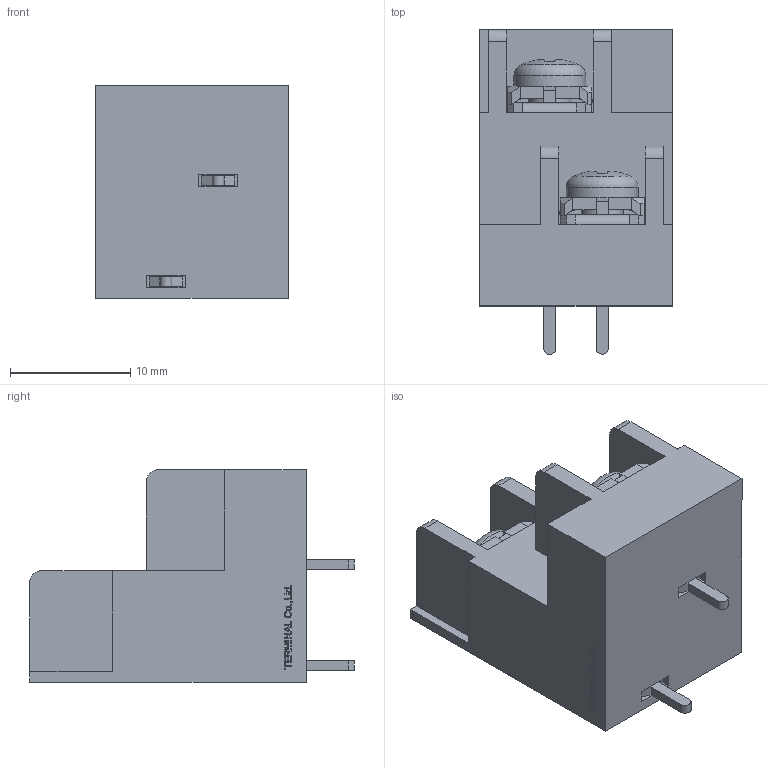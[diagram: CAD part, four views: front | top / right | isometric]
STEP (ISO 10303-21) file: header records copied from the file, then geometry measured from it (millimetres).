
FILE_DESCRIPTION(/* description */ ('Alibre Inc.'),/* implementation_level */ '2;1');
FILE_NAME(/* name */ 'export-DE55157B-4D94-4B90-A0DF-9E572D69C5D6',/* time_stamp */ '2021-02-08T16:55:49+09:00',/* author */ (''),/* organization */ (''),/* preprocessor_version */ 'ST-DEVELOPER v17',/* originating_system */ 'Alibre',/* authorisation */ '');
FILE_SCHEMA (('CONFIG_CONTROL_DESIGN'));
Length unit declared in the file: millimetre
Bounding box: 16.05 x 27 x 17.7 mm (x, y, z)
Volume: 3996.1 mm3; surface area: 2775.6 mm2
Topology: 1 solids, 19 shells, 706 faces, 1810 edges, 1174 vertices
Faces by surface type: plane 498, bspline 162, cylinder 20, extrusion 8, cone 8, torus 6, sphere 4
Full cylindrical faces by diameter (mm): 3.5 x4, 4.5 x2, 5 x2, 6 x2
Entity records: 21605 total; most frequent: CARTESIAN_POINT 6365, ORIENTED_EDGE 3572, DIRECTION 2041, EDGE_CURVE 1786, VECTOR 1324, LINE 1320, VERTEX_POINT 1166, EDGE_LOOP 766
